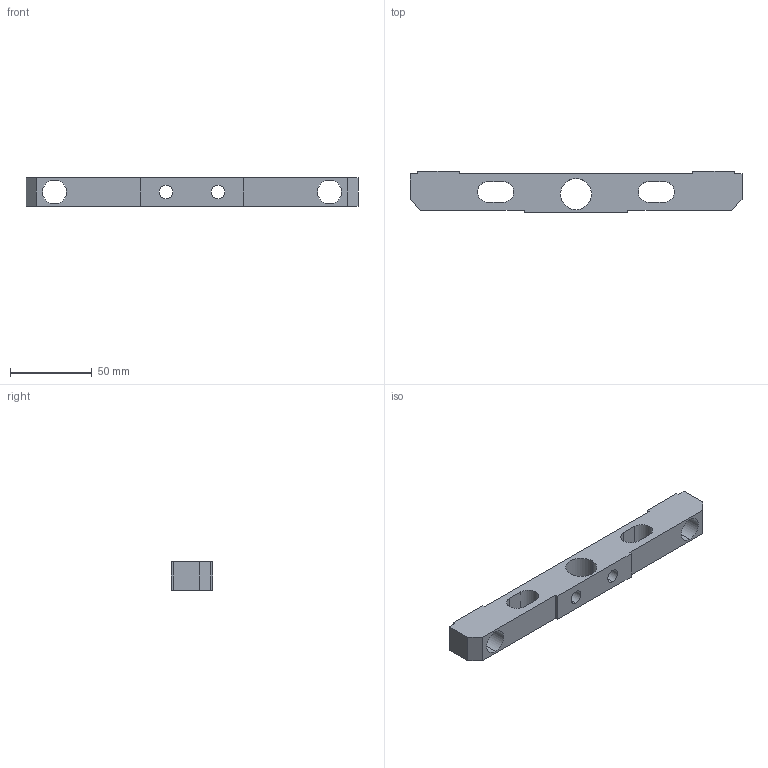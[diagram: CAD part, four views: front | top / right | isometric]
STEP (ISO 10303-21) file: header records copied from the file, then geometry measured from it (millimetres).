
FILE_DESCRIPTION (( 'STEP AP214' ), '1' );
FILE_NAME ('SS1639-1KLB.STEP', '2024-09-09T12:58:44', ( '' ), ( '' ), 'SwSTEP 2.0', 'SolidWorks 2008', '' );
FILE_SCHEMA (( 'AUTOMOTIVE_DESIGN' ));
Length unit declared in the file: inch
Products named in the file (1): SS1639-1KLB
Bounding box: 203.2 x 25.4 x 17.45 mm (x, y, z)
Volume: 57018 mm3; surface area: 21320.9 mm2
Topology: 1 solids, 1 shells, 40 faces, 114 edges, 76 vertices
Faces by surface type: plane 24, cylinder 16
Entity records: 1417 total; most frequent: CARTESIAN_POINT 231, DIRECTION 228, ORIENTED_EDGE 228, EDGE_CURVE 114, VECTOR 82, LINE 82, VERTEX_POINT 76, AXIS2_PLACEMENT_3D 73
